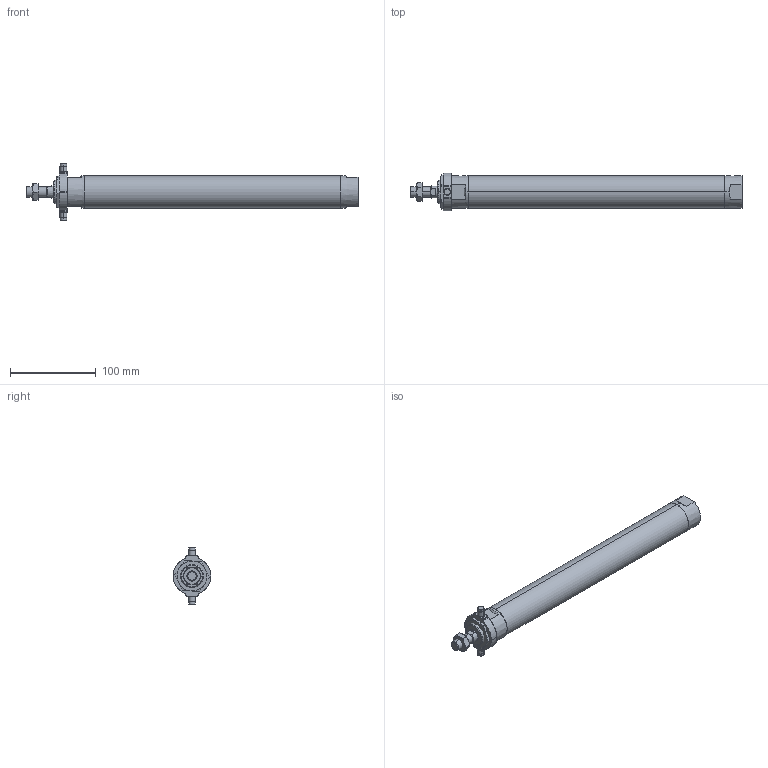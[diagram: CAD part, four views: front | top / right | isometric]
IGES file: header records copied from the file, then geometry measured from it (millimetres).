
Start section: SolidWorks IGES file using analytic representation for surfaces
Global section: file name: C:\Users\Toshiba\Desktop\JGND2-32-250-T.IGS; native system: SolidWorks 2014; preprocessor: SolidWorks 2014; author: Toshiba; date: 160804.110229; units: millimetre
Bounding box: 387 x 44 x 66 mm (x, y, z)
Surface area: 53415.6 mm2 (no closed solid volume)
Topology: 0 solids, 0 shells, 128 faces, 2076 edges, 2072 vertices
Faces by surface type: bspline 66, revolution 62
